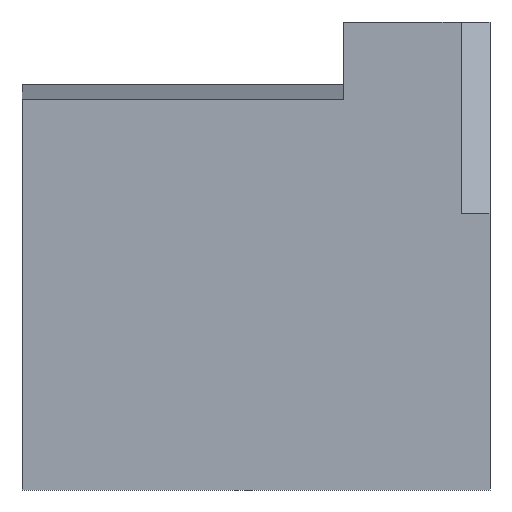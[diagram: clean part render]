
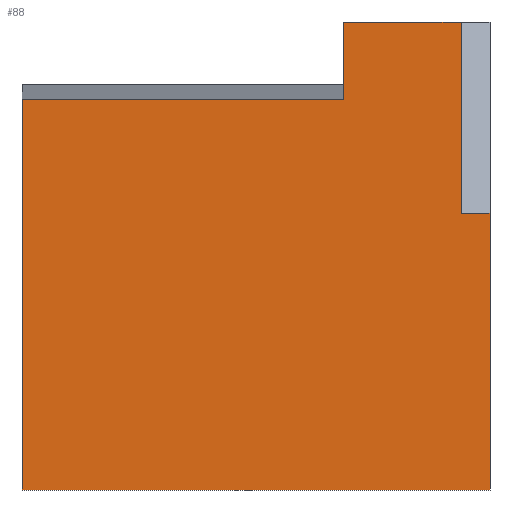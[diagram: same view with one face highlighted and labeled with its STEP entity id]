
A CAD part, front view. The second image highlights one B-rep face of the part: STEP entity #88.
In plain terms, the highlighted planar face has unit normal (0, -1, 0).
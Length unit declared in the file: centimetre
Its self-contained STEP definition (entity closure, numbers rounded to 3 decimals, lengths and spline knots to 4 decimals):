
#9 = ORIENTED_EDGE ( 'NONE', *, *, #110, .T. ) ;
#10 = LINE ( 'NONE', #363, #79 ) ;
#31 = DIRECTION ( 'NONE',  ( 0., 0., 1. ) ) ;
#32 = CARTESIAN_POINT ( 'NONE',  ( 938.348, 0., 591.4903 ) ) ;
#41 = DIRECTION ( 'NONE',  ( 0., 0., -1. ) ) ;
#53 = CARTESIAN_POINT ( 'NONE',  ( 1000., 0., 591.4903 ) ) ;
#67 = EDGE_CURVE ( 'NONE', #339, #234, #504, .T. ) ;
#71 = VERTEX_POINT ( 'NONE', #32 ) ;
#79 = VECTOR ( 'NONE', #41, 100. ) ;
#88 = ADVANCED_FACE ( 'NONE', ( #174 ), #508, .F. ) ;
#92 = LINE ( 'NONE', #129, #199 ) ;
#108 = VECTOR ( 'NONE', #502, 100. ) ;
#110 = EDGE_CURVE ( 'NONE', #303, #339, #117, .T. ) ;
#115 = ORIENTED_EDGE ( 'NONE', *, *, #67, .T. ) ;
#117 = LINE ( 'NONE', #349, #108 ) ;
#129 = CARTESIAN_POINT ( 'NONE',  ( 938.348, 0., 591.4903 ) ) ;
#133 = CARTESIAN_POINT ( 'NONE',  ( 938.348, 0., 1000. ) ) ;
#135 = DIRECTION ( 'NONE',  ( 0., 0., -1. ) ) ;
#136 = CARTESIAN_POINT ( 'NONE',  ( 1000., 0., 0. ) ) ;
#142 = CARTESIAN_POINT ( 'NONE',  ( 0., 0., 1000. ) ) ;
#152 = ORIENTED_EDGE ( 'NONE', *, *, #276, .F. ) ;
#174 = FACE_OUTER_BOUND ( 'NONE', #498, .T. ) ;
#180 = CARTESIAN_POINT ( 'NONE',  ( 0., 0., 0. ) ) ;
#187 = LINE ( 'NONE', #433, #299 ) ;
#191 = EDGE_CURVE ( 'NONE', #71, #493, #92, .T. ) ;
#199 = VECTOR ( 'NONE', #413, 100. ) ;
#227 = DIRECTION ( 'NONE',  ( 0., 0., 1. ) ) ;
#229 = AXIS2_PLACEMENT_3D ( 'NONE', #325, #252, #31 ) ;
#234 = VERTEX_POINT ( 'NONE', #329 ) ;
#238 = VECTOR ( 'NONE', #227, 100. ) ;
#252 = DIRECTION ( 'NONE',  ( 0., 1., 0. ) ) ;
#256 = CARTESIAN_POINT ( 'NONE',  ( 686.4066, 0., 834.7616 ) ) ;
#272 = EDGE_CURVE ( 'NONE', #234, #421, #288, .T. ) ;
#274 = VERTEX_POINT ( 'NONE', #133 ) ;
#276 = EDGE_CURVE ( 'NONE', #493, #421, #10, .T. ) ;
#288 = LINE ( 'NONE', #180, #495 ) ;
#299 = VECTOR ( 'NONE', #135, 100. ) ;
#303 = VERTEX_POINT ( 'NONE', #256 ) ;
#312 = ORIENTED_EDGE ( 'NONE', *, *, #354, .F. ) ;
#321 = CARTESIAN_POINT ( 'NONE',  ( 0., 0., 834.7616 ) ) ;
#325 = CARTESIAN_POINT ( 'NONE',  ( 0., 0., 1000. ) ) ;
#326 = ORIENTED_EDGE ( 'NONE', *, *, #191, .F. ) ;
#329 = CARTESIAN_POINT ( 'NONE',  ( 0., 0., 0. ) ) ;
#331 = DIRECTION ( 'NONE',  ( 1., 0., 0. ) ) ;
#339 = VERTEX_POINT ( 'NONE', #321 ) ;
#342 = ORIENTED_EDGE ( 'NONE', *, *, #346, .F. ) ;
#346 = EDGE_CURVE ( 'NONE', #382, #274, #368, .T. ) ;
#347 = CARTESIAN_POINT ( 'NONE',  ( 0., 0., 1000. ) ) ;
#349 = CARTESIAN_POINT ( 'NONE',  ( 686.4066, 0., 834.7616 ) ) ;
#354 = EDGE_CURVE ( 'NONE', #303, #382, #374, .T. ) ;
#363 = CARTESIAN_POINT ( 'NONE',  ( 1000., 0., 1000. ) ) ;
#368 = LINE ( 'NONE', #142, #444 ) ;
#374 = LINE ( 'NONE', #405, #238 ) ;
#382 = VERTEX_POINT ( 'NONE', #484 ) ;
#405 = CARTESIAN_POINT ( 'NONE',  ( 686.4066, 0., 834.7616 ) ) ;
#413 = DIRECTION ( 'NONE',  ( 1., 0., 0. ) ) ;
#421 = VERTEX_POINT ( 'NONE', #136 ) ;
#427 = VECTOR ( 'NONE', #463, 100. ) ;
#433 = CARTESIAN_POINT ( 'NONE',  ( 938.348, 0., 591.4903 ) ) ;
#444 = VECTOR ( 'NONE', #331, 100. ) ;
#459 = ORIENTED_EDGE ( 'NONE', *, *, #461, .F. ) ;
#461 = EDGE_CURVE ( 'NONE', #274, #71, #187, .T. ) ;
#463 = DIRECTION ( 'NONE',  ( 0., 0., -1. ) ) ;
#476 = DIRECTION ( 'NONE',  ( 1., 0., 0. ) ) ;
#484 = CARTESIAN_POINT ( 'NONE',  ( 686.4066, 0., 1000. ) ) ;
#493 = VERTEX_POINT ( 'NONE', #53 ) ;
#494 = ORIENTED_EDGE ( 'NONE', *, *, #272, .T. ) ;
#495 = VECTOR ( 'NONE', #476, 100. ) ;
#498 = EDGE_LOOP ( 'NONE', ( #312, #9, #115, #494, #152, #326, #459, #342 ) ) ;
#502 = DIRECTION ( 'NONE',  ( -1., 0., 0. ) ) ;
#504 = LINE ( 'NONE', #347, #427 ) ;
#508 = PLANE ( 'NONE',  #229 ) ;
